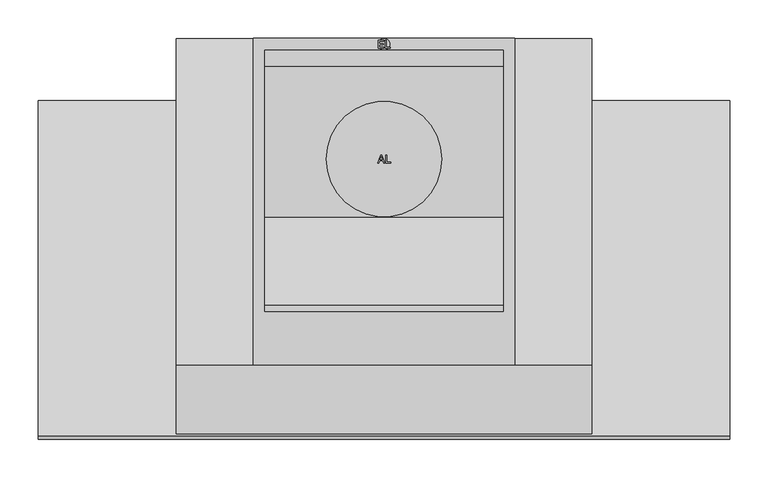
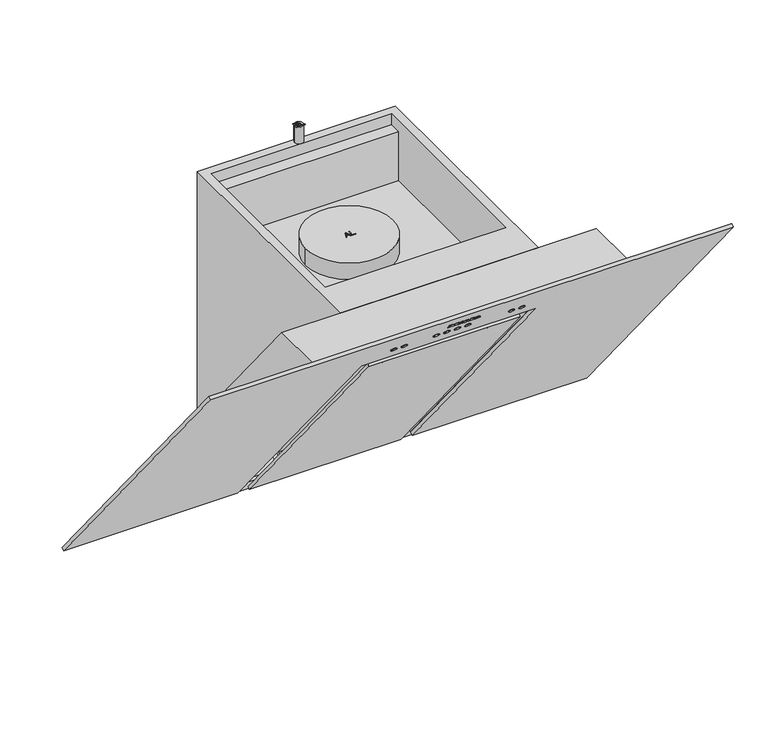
"""IFC4 building model written with IfcOpenShell, lengths in millimetres: proxy geometry, 10837570_RU_DA6498W_OBSW : 28649840_RU_10837570_DA6498W_OBSW."""

from ifc_helpers import new_model, si_unit, point, frame, frame_2d, origin, origin_with_axes, place, context, project, spatial, polyline, circle_curve, ellipse_curve, trimmed, segment, composite_curve, outline, extrude, faceted_brep, source, transform, mapped, element, save
from ifc_brep_helpers import plane_surface, cylinder_surface, revolved_surface, extruded_surface, advanced_brep


def specialty_equipment_2009af76(model_context):
    return source(origin(), model_context, "Body", "SolidModel", [
        extrude(outline(composite_curve([segment(trimmed(circle_curve(frame_2d((0.0, -157.0)), 75.0), [point((-75.0, -157.0))], [point((75.0, -157.0))], False, "CARTESIAN"), True, "CONTINUOUS"), segment(trimmed(circle_curve(frame_2d((0.0, -157.0)), 75.0), [point((75.0, -157.0))], [point((-75.0, -157.0))], False, "CARTESIAN"), True, "CONTINUOUS")], self_intersect=False)), frame((0.0, 0.0, 439.0), z_axis=(0.0, 0.0, 1.0), x_axis=(1.0, 0.0, 0.0)), (0.0, 0.0, 1.0), 30.0),
        faceted_brep([(170.0, 0.0, 23.0707353), (170.0, 0.0, 547.5), (170.0, -424.6744451, 547.5), (-170.0, 0.0, 23.0707353), (-170.0, -424.6744451, 547.5), (-170.0, 0.0, 547.5), (155.0, -15.0, 547.5), (155.0, -355.0, 547.5), (-155.0, -355.0, 547.5), (-155.0, -15.0, 547.5), (155.0, -15.0, 528.0), (155.0, -36.0, 528.0), (155.0, -36.0, 439.0), (155.0, -233.0, 439.0), (155.0, -347.0, 528.0), (155.0, -355.0, 528.0), (-155.0, -355.0, 528.0), (-155.0, -347.0, 528.0), (-155.0, -233.0, 439.0), (-155.0, -36.0, 439.0), (-155.0, -36.0, 528.0), (-155.0, -15.0, 528.0)], [[[0, 1, 2]], [[3, 4, 5]], [[0, 2, 4, 3]], [[1, 0, 3, 5]], [[2, 1, 5, 4], [6, 7, 8, 9]], [[10, 11, 12, 13, 14, 15, 7, 6]], [[16, 17, 18, 19, 20, 21, 9, 8]], [[15, 16, 8, 7]], [[15, 14, 17, 16]], [[14, 13, 18, 17]], [[13, 12, 19, 18]], [[12, 11, 20, 19]], [[11, 10, 21, 20]], [[21, 10, 6, 9]]]),
        extrude(outline(composite_curve([segment(trimmed(circle_curve(frame_2d((0.0, -3.5)), 3.5), [point((0.0, -7.0))], [point((0.0, 0.0))], False, "CARTESIAN"), True, "CONTINUOUS"), segment(trimmed(circle_curve(frame_2d((0.0, -3.5)), 3.5), [point((0.0, 0.0))], [point((0.0, -7.0))], False, "CARTESIAN"), True, "CONTINUOUS")], self_intersect=False)), frame((-90.0, -415.4973437, 423.3471068), z_axis=(0.0, 0.7771459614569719, 0.6293203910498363), x_axis=(1.0, 0.0, 0.0)), (0.0, 0.0, 1.0), 37.0),
        extrude(outline(composite_curve([segment(trimmed(circle_curve(frame_2d((180.0, -4.0036134)), 3.5), [point((180.0, -7.5036133))], [point((180.0, -0.5036133))], False, "CARTESIAN"), True, "CONTINUOUS"), segment(trimmed(circle_curve(frame_2d((180.0, -4.0036134)), 3.5), [point((180.0, -0.5036133))], [point((180.0, -7.5036133))], False, "CARTESIAN"), True, "CONTINUOUS")], self_intersect=False)), frame((-90.0, -415.4973437, 423.3471068), z_axis=(0.0, 0.7771459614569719, 0.6293203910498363), x_axis=(1.0, 0.0, 0.0)), (0.0, 0.0, 1.0), 37.0),
        extrude(outline(composite_curve([segment(trimmed(circle_curve(frame_2d((15.0, 514.561759)), 5.0), [point((15.0, 509.561759))], [point((15.0, 519.561759))], False, "CARTESIAN"), True, "CONTINUOUS"), segment(trimmed(circle_curve(frame_2d((15.0, 514.561759)), 5.0), [point((15.0, 519.561759))], [point((15.0, 509.561759))], False, "CARTESIAN"), True, "CONTINUOUS")], self_intersect=False)), frame((-90.0, -415.4973437, 423.3471068), z_axis=(0.0, 0.7771459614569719, 0.6293203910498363), x_axis=(1.0, 0.0, 0.0)), (0.0, 0.0, 1.0), 37.0),
        extrude(outline(composite_curve([segment(trimmed(circle_curve(frame_2d((165.0, 514.5617717)), 5.0), [point((165.0, 509.5617718))], [point((165.0, 519.5617717))], False, "CARTESIAN"), True, "CONTINUOUS"), segment(trimmed(circle_curve(frame_2d((165.0, 514.5617717)), 5.0), [point((165.0, 519.5617717))], [point((165.0, 509.5617718))], False, "CARTESIAN"), True, "CONTINUOUS")], self_intersect=False)), frame((-90.0, -415.4973437, 423.3471068), z_axis=(0.0, 0.7771459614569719, 0.6293203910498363), x_axis=(1.0, 0.0, 0.0)), (0.0, 0.0, 1.0), 37.0),
        extrude(outline(polyline([(0.0, -5.0), (0.0, 0.0), (260.0, 0.0), (260.0, -5.0), (0.0, -5.0)])), frame((130.0, -85.5896862, 8.0), z_axis=(0.0, -0.6293203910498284, 0.7771459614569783), x_axis=(-1.0, 0.0, 0.0)), (0.0, 0.0, 1.0), 564.2883341),
        extrude(outline(polyline([(898.0, 0.0), (898.0, -692.2883341), (0.0, -692.2883341), (0.0, 0.0), (299.116261, 0.0), (299.116261, -584.288334), (598.883739, -584.288334), (598.883739, 0.0), (898.0, 0.0)])), frame((-449.0, -85.5896862, 8.0), z_axis=(0.0, 0.7771459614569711, 0.6293203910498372), x_axis=(1.0, 0.0, 0.0)), (0.0, 0.0, 1.0), 6.0),
        extrude(outline(polyline([(-7.6476256, -2.4735994), (-0.4023341, -2.4735994), (-0.4023341, -3.7235028), (-6.3612554, -3.7235028), (-6.3612554, -6.712899), (-0.7219306, -6.712899), (-0.7219306, -7.9942253), (-6.366352, -7.9942253), (-6.366352, -11.2651765), (-0.2403397, -11.2651765), (-0.2403397, -12.5381148), (-7.6476256, -12.5381148), (-7.6476256, -2.4735994)])), frame((0.0, 0.0, 578.0), z_axis=(0.0, 0.0, 1.0), x_axis=(1.0, 0.0, 0.0)), (0.0, 0.0, 1.0), 1.0),
        extrude(outline(polyline([(2.9315404, -2.4764714), (2.9315404, -11.2309952), (7.9217424, -11.2309952), (7.9217424, -12.5181464), (1.61276, -12.5181464), (1.61276, -2.4764714), (2.9315404, -2.4764714)])), frame((0.0, 0.0, 578.0), z_axis=(0.0, 0.0, 1.0), x_axis=(1.0, 0.0, 0.0)), (0.0, 0.0, 1.0), 1.0),
        extrude(outline(composite_curve([segment(trimmed(circle_curve(frame_2d((0.0, -7.5)), 7.5), [point((-7.5, -7.5))], [point((7.5, -7.5))], False, "CARTESIAN"), True, "CONTINUOUS"), segment(trimmed(circle_curve(frame_2d((0.0, -7.5)), 7.5), [point((7.5, -7.5))], [point((-7.5, -7.5))], False, "CARTESIAN"), True, "CONTINUOUS")], self_intersect=False)), frame((0.0, 0.0, 548.0), z_axis=(0.0, 0.0, 1.0), x_axis=(1.0, 0.0, 0.0)), (0.0, 0.0, 1.0), 30.0),
        extrude(outline(polyline([(-3.0868012, -151.9480082), (0.9221369, -161.9996288), (-0.4201983, -161.9996288), (-1.5630743, -158.8536246), (-5.7041197, -158.8536246), (-6.9588558, -161.9867213), (-8.1783608, -161.9867213), (-4.1580778, -151.9480082), (-3.0868012, -151.9480082)]), holes=[polyline([(-2.0285512, -157.5915025), (-3.623797, -153.5917386), (-5.2256142, -157.5915025), (-2.0285512, -157.5915025)])]), frame((0.0, 0.0, 469.0), z_axis=(0.0, 0.0, 1.0), x_axis=(1.0, 0.0, 0.0)), (0.0, 0.0, 1.0), 1.0),
        extrude(outline(polyline([(3.5511828, -151.9458297), (3.5511828, -160.7124059), (8.5511838, -160.7124059), (8.5511838, -161.9458278), (2.2629352, -161.9458278), (2.2629352, -151.9458297), (3.5511828, -151.9458297)])), frame((0.0, 0.0, 469.0), z_axis=(0.0, 0.0, 1.0), x_axis=(1.0, 0.0, 0.0)), (0.0, 0.0, 1.0), 1.0),
        extrude(outline(polyline([(174.0, -8.0), (174.0, -73.0), (-174.0, -73.0), (-174.0, -8.0), (174.0, -8.0)])), origin_with_axes(), (0.0, 0.0, 1.0), 12.0),
        advanced_brep(
        [(270.0, 0.0, 23.0707353), (270.0, -424.6744451, 547.5), (270.0, -514.7476147, 547.5), (270.0, -81.1082649, 12.0), (270.0, 0.0, 12.0), (-270.0, 0.0, 23.0707353), (-270.0, 0.0, 12.0), (-270.0, -81.1082649, 12.0), (-270.0, -514.7476147, 547.5), (-270.0, -424.6744451, 547.5), (-149.883739, -81.1082649, 12.0), (-149.883739, -448.6313733, 465.8532415), (149.883739, -448.6313733, 465.8532415), (149.883739, -81.1082649, 12.0), (149.883739, -65.8652085, 12.0), (-149.883739, -65.8652085, 12.0), (227.0, -72.0, 12.0), (227.0, -12.0, 12.0), (-227.0, -72.0, 12.0), (-227.0, -12.0, 12.0), (149.883739, -420.6541187, 488.5087756), (149.883739, -47.0940869, 27.2005546), (-149.883739, -47.0940869, 27.2005546), (-149.883739, -420.6541187, 488.5087756), (227.0, -12.0, 24.0), (227.0, -72.0, 24.0), (-227.0, -12.0, 24.0), (-227.0, -72.0, 24.0)],
        [
            (0, 1),
            (1, 2),
            (2, 3),
            (3, 4),
            (4, 0),
            (5, 6),
            (6, 7),
            (7, 8),
            (8, 9),
            (9, 5),
            (0, 5),
            (9, 1),
            (2, 8),
            (7, 10),
            (10, 11),
            (11, 12),
            (12, 13),
            (13, 3),
            (13, 14),
            (14, 15),
            (15, 10),
            (6, 4),
            (16, 17, circle_curve(frame((227.0, -42.0, 12.0), z_axis=(0.0, 0.0, 1.0), x_axis=(0.0, -1.0, 0.0)), 30.0)),
            (17, 16, circle_curve(frame((227.0, -42.0, 12.0), z_axis=(0.0, 0.0, 1.0), x_axis=(0.0, -1.0, 0.0)), 30.0)),
            (18, 19, circle_curve(frame((-227.0, -42.0, 12.0), z_axis=(0.0, 0.0, 1.0), x_axis=(0.0, -1.0, 0.0)), 30.0)),
            (19, 18, circle_curve(frame((-227.0, -42.0, 12.0), z_axis=(0.0, 0.0, 1.0), x_axis=(0.0, -1.0, 0.0)), 30.0)),
            (20, 21),
            (21, 14),
            (12, 20),
            (22, 23),
            (23, 11),
            (15, 22),
            (21, 22),
            (20, 23),
            (24, 25, circle_curve(frame((227.0, -42.0, 24.0), z_axis=(0.0, 0.0, -1.0), x_axis=(0.0, -1.0, 0.0)), 30.0)),
            (25, 24, circle_curve(frame((227.0, -42.0, 24.0), z_axis=(0.0, 0.0, -1.0), x_axis=(0.0, -1.0, 0.0)), 30.0)),
            (26, 27, circle_curve(frame((-227.0, -42.0, 24.0), z_axis=(0.0, 0.0, -1.0), x_axis=(0.0, -1.0, 0.0)), 30.0)),
            (27, 26, circle_curve(frame((-227.0, -42.0, 24.0), z_axis=(0.0, 0.0, -1.0), x_axis=(0.0, -1.0, 0.0)), 30.0)),
            (24, 17),
            (16, 25),
            (26, 19),
            (18, 27),
        ],
        [
            plane_surface(frame((270.0, -424.6744451, 547.5), z_axis=(1.0, 0.0, 0.0), x_axis=(0.0, -0.6293203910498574, 0.7771459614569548))),
            plane_surface(frame((-270.0, -424.6744451, 547.5), z_axis=(-1.0, 0.0, 0.0), x_axis=(0.0, 0.6293203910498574, -0.7771459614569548))),
            plane_surface(frame((270.0, 0.0, 23.0707353), z_axis=(0.0, 0.7771459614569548, 0.6293203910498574), x_axis=(-1.0, 0.0, 0.0))),
            plane_surface(frame((270.0, -514.7476147, 547.5), z_axis=(0.0, -0.7771459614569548, -0.6293203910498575), x_axis=(-1.0, 0.0, 0.0))),
            plane_surface(frame((270.0, -81.1082649, 12.0), z_axis=(0.0, 0.0, -1.0), x_axis=(-1.0, 0.0, 0.0))),
            plane_surface(frame((270.0, 0.0, 12.0), z_axis=(0.0, 1.0, 0.0), x_axis=(-1.0, 0.0, 0.0))),
            plane_surface(frame((270.0, -424.6744451, 547.5), z_axis=(0.0, 0.0, 1.0), x_axis=(-1.0, 0.0, 0.0))),
            plane_surface(frame((149.883739, -453.2942491, 462.0773191), z_axis=(-1.0, 0.0, 0.0), x_axis=(0.0, 0.6293203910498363, -0.7771459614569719))),
            plane_surface(frame((-149.883739, -453.2942491, 462.0773191), z_axis=(1.0, 0.0, 0.0), x_axis=(0.0, -0.6293203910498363, 0.7771459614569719))),
            plane_surface(frame((-149.883739, -47.0940869, 27.2005546), z_axis=(0.0, -0.6293203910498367, 0.7771459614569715), x_axis=(1.0, 0.0, 0.0))),
            plane_surface(frame((-149.883739, -420.6541187, 488.5087756), z_axis=(0.0, -0.7771459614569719, -0.6293203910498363), x_axis=(1.0, 0.0, 0.0))),
            plane_surface(frame((-149.883739, -453.2942491, 462.0773191), z_axis=(0.0, 0.6293203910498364, -0.7771459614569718), x_axis=(1.0, 0.0, 0.0))),
            plane_surface(frame((227.0, -72.0, 24.0), z_axis=(0.0, 0.0, -1.0), x_axis=(1.0, 0.0, 0.0))),
            revolved_surface(polyline([(227.0, -72.0, 12.0), (227.0, -72.0, 24.0)]), (227.0, -42.0, 24.0), (0.0, 0.0, -1.0)),
            revolved_surface(polyline([(-227.0, -72.0, 12.0), (-227.0, -72.0, 24.0)]), (-227.0, -42.0, 0.0), (0.0, 0.0, -1.0)),
        ],
        [
            (0, [[1, 2, 3, 4, 5]]),
            (1, [[6, 7, 8, 9, 10]]),
            (2, [[-1, 11, -10, 12]]),
            (3, [[-3, 13, -8, 14, 15, 16, 17, 18]]),
            (4, [[-4, -18, 19, 20, 21, -14, -7, 22], [23, 24], [25, 26]]),
            (5, [[-5, -22, -6, -11]]),
            (6, [[-2, -12, -9, -13]]),
            (7, [[27, 28, -19, -17, 29]]),
            (8, [[30, 31, -15, -21, 32]]),
            (9, [[33, -32, -20, -28]]),
            (10, [[-27, 34, -30, -33]]),
            (11, [[-34, -29, -16, -31]]),
            (12, [[35, 36]]),
            (12, [[37, 38]]),
            (13, [[-35, 39, -23, 40]]),
            (13, [[-36, -40, -24, -39]]),
            (14, [[-37, 41, -25, 42]]),
            (14, [[-38, -42, -26, -41]]),
        ],
    ),
        extrude(outline(composite_curve([segment(trimmed(circle_curve(frame_2d((0.0, -5.0)), 5.0), [point((0.0, -10.0))], [point((0.0, 0.0))], False, "CARTESIAN"), True, "CONTINUOUS"), segment(trimmed(circle_curve(frame_2d((0.0, -5.0)), 5.0), [point((0.0, 0.0))], [point((0.0, -10.0))], False, "CARTESIAN"), True, "CONTINUOUS")], self_intersect=False)), frame((110.0, -483.9964654, 498.3359329), z_axis=(0.0, 0.7771459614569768, 0.6293203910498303), x_axis=(-1.0, 0.0, 0.0)), (0.0, 0.0, 1.0), 1.0),
        extrude(outline(composite_curve([segment(trimmed(circle_curve(frame_2d((18.0269412, -5.0)), 5.0), [point((18.0269412, -10.0))], [point((18.0269412, 0.0))], False, "CARTESIAN"), True, "CONTINUOUS"), segment(trimmed(circle_curve(frame_2d((18.0269412, -5.0)), 5.0), [point((18.0269412, 0.0))], [point((18.0269412, -10.0))], False, "CARTESIAN"), True, "CONTINUOUS")], self_intersect=False)), frame((110.0, -483.9964654, 498.3359329), z_axis=(0.0, 0.7771459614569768, 0.6293203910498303), x_axis=(-1.0, 0.0, 0.0)), (0.0, 0.0, 1.0), 1.0),
        extrude(outline(composite_curve([segment(trimmed(circle_curve(frame_2d((147.0, -5.0)), 5.0), [point((147.0, -10.0))], [point((147.0, 0.0))], False, "CARTESIAN"), True, "CONTINUOUS"), segment(trimmed(circle_curve(frame_2d((147.0, -5.0)), 5.0), [point((147.0, 0.0))], [point((147.0, -10.0))], False, "CARTESIAN"), True, "CONTINUOUS")], self_intersect=False)), frame((110.0, -483.9964654, 498.3359329), z_axis=(0.0, 0.7771459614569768, 0.6293203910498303), x_axis=(-1.0, 0.0, 0.0)), (0.0, 0.0, 1.0), 1.0),
        extrude(outline(composite_curve([segment(trimmed(circle_curve(frame_2d((128.9874104, -5.0)), 5.0), [point((128.9874104, -10.0))], [point((128.9874104, 0.0))], False, "CARTESIAN"), True, "CONTINUOUS"), segment(trimmed(circle_curve(frame_2d((128.9874104, -5.0)), 5.0), [point((128.9874104, 0.0))], [point((128.9874104, -10.0))], False, "CARTESIAN"), True, "CONTINUOUS")], self_intersect=False)), frame((110.0, -483.9964654, 498.3359329), z_axis=(0.0, 0.7771459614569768, 0.6293203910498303), x_axis=(-1.0, 0.0, 0.0)), (0.0, 0.0, 1.0), 1.0),
        extrude(outline(composite_curve([segment(trimmed(circle_curve(frame_2d((110.9749274, -5.0)), 5.0), [point((110.9749274, -10.0))], [point((110.9749274, 0.0))], False, "CARTESIAN"), True, "CONTINUOUS"), segment(trimmed(circle_curve(frame_2d((110.9749274, -5.0)), 5.0), [point((110.9749274, 0.0))], [point((110.9749274, -10.0))], False, "CARTESIAN"), True, "CONTINUOUS")], self_intersect=False)), frame((110.0, -483.9964654, 498.3359329), z_axis=(0.0, 0.7771459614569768, 0.6293203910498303), x_axis=(-1.0, 0.0, 0.0)), (0.0, 0.0, 1.0), 1.0),
        extrude(outline(composite_curve([segment(trimmed(circle_curve(frame_2d((92.9624445, -5.0)), 5.0), [point((92.9624445, -10.0))], [point((92.9624445, 0.0))], False, "CARTESIAN"), True, "CONTINUOUS"), segment(trimmed(circle_curve(frame_2d((92.9624445, -5.0)), 5.0), [point((92.9624445, 0.0))], [point((92.9624445, -10.0))], False, "CARTESIAN"), True, "CONTINUOUS")], self_intersect=False)), frame((110.0, -483.9964654, 498.3359329), z_axis=(0.0, 0.7771459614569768, 0.6293203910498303), x_axis=(-1.0, 0.0, 0.0)), (0.0, 0.0, 1.0), 1.0),
        extrude(outline(composite_curve([segment(trimmed(circle_curve(frame_2d((202.0, -5.0)), 5.0), [point((202.0, -10.0))], [point((202.0, 0.0))], False, "CARTESIAN"), True, "CONTINUOUS"), segment(trimmed(circle_curve(frame_2d((202.0, -5.0)), 5.0), [point((202.0, 0.0))], [point((202.0, -10.0))], False, "CARTESIAN"), True, "CONTINUOUS")], self_intersect=False)), frame((110.0, -483.9964654, 498.3359329), z_axis=(0.0, 0.7771459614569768, 0.6293203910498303), x_axis=(-1.0, 0.0, 0.0)), (0.0, 0.0, 1.0), 1.0),
        extrude(outline(composite_curve([segment(trimmed(circle_curve(frame_2d((220.0, -5.0)), 5.0), [point((220.0, -10.0))], [point((220.0, 0.0))], False, "CARTESIAN"), True, "CONTINUOUS"), segment(trimmed(circle_curve(frame_2d((220.0, -5.0)), 5.0), [point((220.0, 0.0))], [point((220.0, -10.0))], False, "CARTESIAN"), True, "CONTINUOUS")], self_intersect=False)), frame((110.0, -483.9964654, 498.3359329), z_axis=(0.0, 0.7771459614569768, 0.6293203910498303), x_axis=(-1.0, 0.0, 0.0)), (0.0, 0.0, 1.0), 1.0),
        advanced_brep(
        [(21.38, -499.2118102, 517.1678079), (21.38, -499.7838624, 517.8742336), (27.401, -499.7838624, 517.8742336), (16.925, -499.7838624, 517.8742336), (19.4, -497.8694698, 515.5101556), (27.248, -499.2118102, 517.1678079), (24.53, -499.2118102, 517.1678079), (22.388, -498.5774552, 516.3844448), (21.38, -500.5088395, 518.7695058), (21.38, -501.1262028, 519.531886), (22.919, -501.1262028, 519.531886), (22.919, -500.5088395, 518.7695058), (21.38, -498.4346642, 517.7971283), (22.388, -497.8003093, 517.0137652), (24.53, -498.4346642, 517.7971283), (27.248, -498.4346642, 517.7971283), (19.4, -497.0923238, 516.139476), (16.925, -499.0067165, 518.503554), (27.401, -499.0067165, 518.503554), (21.38, -499.0067165, 518.503554), (21.38, -499.7316936, 519.3988262), (22.919, -499.7316936, 519.3988262), (22.919, -500.3490569, 520.1612063), (21.38, -500.3490569, 520.1612063)],
        [
            (0, 1),
            (1, 2),
            (2, 3, ellipse_curve(frame((22.163, -499.7838624, 517.8742336), z_axis=(0.0, -0.7771459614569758, -0.6293203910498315), x_axis=(-1.0, 0.0, 0.0)), 5.238, 4.329)),
            (3, 4, circle_curve(frame((20.4080491, -499.9764345, 518.1120403), z_axis=(0.0, -0.7771459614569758, -0.6293203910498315), x_axis=(0.0, 0.6293203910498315, -0.7771459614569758)), 3.4964649)),
            (4, 5, circle_curve(frame((22.0581428, -501.4716997, 519.9585391), z_axis=(0.0, -0.7771459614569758, -0.6293203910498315), x_axis=(0.0, 0.6293203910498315, -0.7771459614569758)), 6.3110933)),
            (5, 6),
            (6, 7, circle_curve(frame((22.8279412, -499.7385514, 517.8182791), z_axis=(0.0, 0.7771459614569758, 0.6293203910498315), x_axis=(0.0, 0.6293203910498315, -0.7771459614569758)), 1.896727)),
            (7, 0, circle_curve(frame((22.388, -499.2118102, 517.1678079), z_axis=(0.0, 0.7771459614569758, 0.6293203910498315), x_axis=(0.0, 0.6293203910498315, -0.7771459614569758)), 1.008)),
            (8, 9),
            (9, 10, circle_curve(frame((22.1495, -501.1262028, 519.531886), z_axis=(0.0, 0.7771459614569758, 0.6293203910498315), x_axis=(0.0, 0.6293203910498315, -0.7771459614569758)), 0.7695)),
            (10, 11),
            (11, 8),
            (12, 13, circle_curve(frame((22.388, -498.4346642, 517.7971283), z_axis=(0.0, -0.7771459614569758, -0.6293203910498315), x_axis=(0.0, 0.6293203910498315, -0.7771459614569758)), 1.008)),
            (13, 14, circle_curve(frame((22.8279412, -498.9614054, 518.4475995), z_axis=(0.0, -0.7771459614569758, -0.6293203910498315), x_axis=(0.0, 0.6293203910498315, -0.7771459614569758)), 1.896727)),
            (14, 15),
            (15, 16, circle_curve(frame((22.0581428, -500.6945538, 520.5878595), z_axis=(0.0, 0.7771459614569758, 0.6293203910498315), x_axis=(0.0, 0.6293203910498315, -0.7771459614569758)), 6.3110933)),
            (16, 17, circle_curve(frame((20.4080491, -499.1992885, 518.7413607), z_axis=(0.0, 0.7771459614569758, 0.6293203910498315), x_axis=(0.0, 0.6293203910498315, -0.7771459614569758)), 3.4964649)),
            (17, 18, ellipse_curve(frame((22.163, -499.0067165, 518.503554), z_axis=(0.0, 0.7771459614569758, 0.6293203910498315), x_axis=(-1.0, 0.0, 0.0)), 5.238, 4.329)),
            (18, 19),
            (19, 12),
            (20, 21),
            (21, 22),
            (22, 23, circle_curve(frame((22.1495, -500.3490569, 520.1612063), z_axis=(0.0, -0.7771459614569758, -0.6293203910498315), x_axis=(0.0, 0.6293203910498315, -0.7771459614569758)), 0.7695)),
            (23, 20),
            (0, 12),
            (19, 1),
            (18, 2),
            (5, 15),
            (14, 6),
            (17, 3),
            (13, 7),
            (16, 4),
            (8, 20),
            (23, 9),
            (22, 10),
            (21, 11),
        ],
        [
            plane_surface(frame((21.38, -499.7838624, 517.8742336), z_axis=(0.0, -0.7771459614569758, -0.6293203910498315), x_axis=(0.0, -0.6293203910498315, 0.7771459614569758))),
            plane_surface(frame((21.38, -499.0067165, 518.503554), z_axis=(0.0, 0.7771459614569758, 0.6293203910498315), x_axis=(0.0, 0.6293203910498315, -0.7771459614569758))),
            plane_surface(frame((21.38, -499.2118102, 517.1678079), z_axis=(1.0, 0.0, 0.0), x_axis=(0.0, 0.7771459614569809, 0.6293203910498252))),
            plane_surface(frame((21.38, -499.7838624, 517.8742336), z_axis=(0.0, 0.629320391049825, -0.777145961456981), x_axis=(0.0, 0.777145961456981, 0.629320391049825))),
            plane_surface(frame((27.248, -499.2118102, 517.1678079), z_axis=(0.0, -0.6293203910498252, 0.7771459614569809), x_axis=(0.0, 0.7771459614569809, 0.6293203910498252))),
            extruded_surface(trimmed(ellipse_curve(frame((22.163, -498.2295705, 519.1328744), z_axis=(0.0, -0.7771459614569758, -0.6293203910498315), x_axis=(-1.0, 0.0, 0.0)), 5.238, 4.329), [point((27.401, -498.2295705, 519.1328744))], [point((16.925, -498.2295705, 519.1328744))], True, "CARTESIAN"), (0.0, -0.7771459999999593, -0.6293203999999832), 1.0000000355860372),
            revolved_surface(polyline([(22.8279412, -497.76775641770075, 516.9735657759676), (22.8279412, -498.5449024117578, 516.3442453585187)]), (22.8279412, -498.9614054, 518.4475995), (0.0, 0.7771459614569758, 0.6293203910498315)),
            revolved_surface(polyline([(22.388, -497.8003092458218, 517.0137651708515), (22.388, -498.5774552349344, 516.3844447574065)]), (22.388, -498.4346642, 517.7971283), (0.0, 0.7771459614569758, 0.6293203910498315)),
            cylinder_surface(frame((20.4080491, -499.1992885, 518.7413607), z_axis=(0.0, -0.7771459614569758, -0.6293203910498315), x_axis=(0.0, 0.6293203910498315, -0.7771459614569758)), 3.4964649),
            cylinder_surface(frame((22.0581428, -500.6945538, 520.5878595), z_axis=(0.0, -0.7771459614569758, -0.6293203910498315), x_axis=(0.0, 0.6293203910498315, -0.7771459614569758)), 6.3110933),
            plane_surface(frame((21.38, -500.5088395, 518.7695058), z_axis=(1.0, 0.0, 0.0), x_axis=(0.0, 0.7771459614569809, 0.6293203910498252))),
            revolved_surface(polyline([(22.1495, -499.86479485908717, 519.5631924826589), (22.1495, -500.6419407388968, 518.9338721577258)]), (22.1495, -500.3490569, 520.1612063), (0.0, 0.7771459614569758, 0.6293203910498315)),
            plane_surface(frame((22.919, -501.1262028, 519.531886), z_axis=(-1.0, 0.0, 0.0), x_axis=(0.0, 0.7771459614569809, 0.6293203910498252))),
            plane_surface(frame((22.919, -500.5088395, 518.7695058), z_axis=(0.0, -0.6293203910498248, 0.7771459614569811), x_axis=(0.0, 0.7771459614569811, 0.6293203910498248))),
        ],
        [
            (0, [[1, 2, 3, 4, 5, 6, 7, 8], [9, 10, 11, 12]]),
            (1, [[13, 14, 15, 16, 17, 18, 19, 20], [21, 22, 23, 24]]),
            (2, [[-1, 25, -20, 26]]),
            (3, [[-2, -26, -19, 27]]),
            (4, [[-6, 28, -15, 29]]),
            (5, [[-3, -27, -18, 30]]),
            (6, [[-7, -29, -14, 31]]),
            (7, [[-8, -31, -13, -25]]),
            (8, [[-4, -30, -17, 32]]),
            (9, [[-5, -32, -16, -28]]),
            (10, [[-9, 33, -24, 34]]),
            (11, [[-10, -34, -23, 35]]),
            (12, [[-11, -35, -22, 36]]),
            (13, [[-12, -36, -21, -33]]),
        ],
    ),
        advanced_brep(
        [(2.597, -499.2118102, 517.1678079), (2.597, -499.7838624, 517.8742336), (8.618, -499.7838624, 517.8742336), (-1.858, -499.7838624, 517.8742336), (0.617, -497.8694698, 515.5101556), (8.465, -499.2118102, 517.1678079), (5.747, -499.2118102, 517.1678079), (3.605, -498.5774552, 516.3844448), (2.597, -500.5088395, 518.7695058), (2.597, -501.1262028, 519.531886), (4.136, -501.1262028, 519.531886), (4.136, -500.5088395, 518.7695058), (2.597, -498.4346642, 517.7971283), (3.605, -497.8003093, 517.0137652), (5.747, -498.4346642, 517.7971283), (8.465, -498.4346642, 517.7971283), (0.617, -497.0923238, 516.139476), (-1.858, -499.0067165, 518.503554), (8.618, -499.0067165, 518.503554), (2.597, -499.0067165, 518.503554), (2.597, -499.7316936, 519.3988262), (4.136, -499.7316936, 519.3988262), (4.136, -500.3490569, 520.1612063), (2.597, -500.3490569, 520.1612063)],
        [
            (0, 1),
            (1, 2),
            (2, 3, ellipse_curve(frame((3.38, -499.7838624, 517.8742336), z_axis=(0.0, -0.7771459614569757, -0.6293203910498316), x_axis=(-1.0, 0.0, 0.0)), 5.238, 4.329)),
            (3, 4, circle_curve(frame((1.6250491, -499.9764345, 518.1120403), z_axis=(0.0, -0.7771459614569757, -0.6293203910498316), x_axis=(0.0, 0.6293203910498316, -0.7771459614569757)), 3.4964649)),
            (4, 5, circle_curve(frame((3.2751428, -501.4716997, 519.9585391), z_axis=(0.0, -0.7771459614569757, -0.6293203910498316), x_axis=(0.0, 0.6293203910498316, -0.7771459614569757)), 6.3110933)),
            (5, 6),
            (6, 7, circle_curve(frame((4.0449412, -499.7385514, 517.8182791), z_axis=(0.0, 0.7771459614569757, 0.6293203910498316), x_axis=(0.0, 0.6293203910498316, -0.7771459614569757)), 1.896727)),
            (7, 0, circle_curve(frame((3.605, -499.2118102, 517.1678079), z_axis=(0.0, 0.7771459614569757, 0.6293203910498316), x_axis=(0.0, 0.6293203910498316, -0.7771459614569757)), 1.008)),
            (8, 9),
            (9, 10, circle_curve(frame((3.3665, -501.1262028, 519.531886), z_axis=(0.0, 0.7771459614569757, 0.6293203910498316), x_axis=(0.0, 0.6293203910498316, -0.7771459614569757)), 0.7695)),
            (10, 11),
            (11, 8),
            (12, 13, circle_curve(frame((3.605, -498.4346642, 517.7971283), z_axis=(0.0, -0.7771459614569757, -0.6293203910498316), x_axis=(0.0, 0.6293203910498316, -0.7771459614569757)), 1.008)),
            (13, 14, circle_curve(frame((4.0449412, -498.9614054, 518.4475995), z_axis=(0.0, -0.7771459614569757, -0.6293203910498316), x_axis=(0.0, 0.6293203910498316, -0.7771459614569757)), 1.896727)),
            (14, 15),
            (15, 16, circle_curve(frame((3.2751428, -500.6945538, 520.5878595), z_axis=(0.0, 0.7771459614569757, 0.6293203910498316), x_axis=(0.0, 0.6293203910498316, -0.7771459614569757)), 6.3110933)),
            (16, 17, circle_curve(frame((1.6250491, -499.1992885, 518.7413607), z_axis=(0.0, 0.7771459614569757, 0.6293203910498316), x_axis=(0.0, 0.6293203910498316, -0.7771459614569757)), 3.4964649)),
            (17, 18, ellipse_curve(frame((3.38, -499.0067165, 518.503554), z_axis=(0.0, 0.7771459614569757, 0.6293203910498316), x_axis=(-1.0, 0.0, 0.0)), 5.238, 4.329)),
            (18, 19),
            (19, 12),
            (20, 21),
            (21, 22),
            (22, 23, circle_curve(frame((3.3665, -500.3490569, 520.1612063), z_axis=(0.0, -0.7771459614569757, -0.6293203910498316), x_axis=(0.0, 0.6293203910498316, -0.7771459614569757)), 0.7695)),
            (23, 20),
            (0, 12),
            (19, 1),
            (18, 2),
            (5, 15),
            (14, 6),
            (17, 3),
            (13, 7),
            (16, 4),
            (8, 20),
            (23, 9),
            (22, 10),
            (21, 11),
        ],
        [
            plane_surface(frame((2.597, -499.7838624, 517.8742336), z_axis=(0.0, -0.7771459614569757, -0.6293203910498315), x_axis=(0.0, -0.6293203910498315, 0.7771459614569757))),
            plane_surface(frame((2.597, -499.0067165, 518.503554), z_axis=(0.0, 0.7771459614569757, 0.6293203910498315), x_axis=(0.0, 0.6293203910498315, -0.7771459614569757))),
            plane_surface(frame((2.597, -499.2118102, 517.1678079), z_axis=(1.0, 0.0, 0.0), x_axis=(0.0, 0.7771459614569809, 0.6293203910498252))),
            plane_surface(frame((2.597, -499.7838624, 517.8742336), z_axis=(0.0, 0.6293203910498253, -0.7771459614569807), x_axis=(0.0, 0.7771459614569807, 0.6293203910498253))),
            plane_surface(frame((8.465, -499.2118102, 517.1678079), z_axis=(0.0, -0.6293203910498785, 0.7771459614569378), x_axis=(0.0, 0.7771459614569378, 0.6293203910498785))),
            extruded_surface(trimmed(ellipse_curve(frame((3.38, -498.2295705, 519.1328744), z_axis=(0.0, -0.7771459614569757, -0.6293203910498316), x_axis=(-1.0, 0.0, 0.0)), 5.238, 4.329), [point((8.618, -498.2295705, 519.1328744))], [point((-1.858, -498.2295705, 519.1328744))], True, "CARTESIAN"), (0.0, -0.7771459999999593, -0.6293203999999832), 1.0000000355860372),
            revolved_surface(polyline([(4.0449412, -497.76775641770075, 516.9735657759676), (4.0449412, -498.5449024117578, 516.3442453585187)]), (4.0449412, -498.9614054, 518.4475995), (0.0, 0.7771459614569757, 0.6293203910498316)),
            revolved_surface(polyline([(3.605, -497.8003092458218, 517.0137651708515), (3.605, -498.5774552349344, 516.3844447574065)]), (3.605, -498.4346642, 517.7971283), (0.0, 0.7771459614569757, 0.6293203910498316)),
            cylinder_surface(frame((1.6250491, -499.1992885, 518.7413607), z_axis=(0.0, -0.7771459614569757, -0.6293203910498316), x_axis=(0.0, 0.6293203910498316, -0.7771459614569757)), 3.4964649),
            cylinder_surface(frame((3.2751428, -500.6945538, 520.5878595), z_axis=(0.0, -0.7771459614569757, -0.6293203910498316), x_axis=(0.0, 0.6293203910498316, -0.7771459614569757)), 6.3110933),
            plane_surface(frame((2.597, -500.5088395, 518.7695058), z_axis=(1.0, 0.0, 0.0), x_axis=(0.0, 0.7771459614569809, 0.6293203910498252))),
            revolved_surface(polyline([(3.3665, -499.86479485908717, 519.5631924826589), (3.3665, -500.6419407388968, 518.9338721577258)]), (3.3665, -500.3490569, 520.1612063), (0.0, 0.7771459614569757, 0.6293203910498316)),
            plane_surface(frame((4.136, -501.1262028, 519.531886), z_axis=(-1.0000000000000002, 0.0, 0.0), x_axis=(0.0, 0.7771459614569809, 0.6293203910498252))),
            plane_surface(frame((4.136, -500.5088395, 518.7695058), z_axis=(0.0, -0.6293203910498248, 0.7771459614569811), x_axis=(0.0, 0.7771459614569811, 0.6293203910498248))),
        ],
        [
            (0, [[1, 2, 3, 4, 5, 6, 7, 8], [9, 10, 11, 12]]),
            (1, [[13, 14, 15, 16, 17, 18, 19, 20], [21, 22, 23, 24]]),
            (2, [[-1, 25, -20, 26]]),
            (3, [[-2, -26, -19, 27]]),
            (4, [[-6, 28, -15, 29]]),
            (5, [[-3, -27, -18, 30]]),
            (6, [[-7, -29, -14, 31]]),
            (7, [[-8, -31, -13, -25]]),
            (8, [[-4, -30, -17, 32]]),
            (9, [[-5, -32, -16, -28]]),
            (10, [[-9, 33, -24, 34]]),
            (11, [[-10, -34, -23, 35]]),
            (12, [[-11, -35, -22, 36]]),
            (13, [[-12, -36, -21, -33]]),
        ],
    ),
        extrude(outline(polyline([(0.0, 0.0), (1.610472, 0.0), (1.6189216, -3.3660977), (0.0122721, -3.3742456), (0.0, 0.0)])), frame((-7.24, -502.8297144, 521.6357884), z_axis=(0.0, 0.7771459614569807, 0.6293203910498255), x_axis=(0.42472021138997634, 0.5697392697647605, -0.703569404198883)), (0.0, 0.0, 1.0), 1.0),
        extrude(outline(polyline([(0.5550646, 2.7158734), (2.0135426, 3.4000976), (2.4684179, 2.4304949), (5.809066, 3.9977125), (5.3541906, 4.9673152), (6.7230415, 5.6094922), (9.7389797, -0.8192182), (8.3701288, -1.4613952), (7.9267209, -0.5162362), (3.1275949, -2.7676781), (0.5550646, 2.7158734)])), frame((-7.24, -502.8297144, 521.6357884), z_axis=(0.0, 0.7771459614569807, 0.6293203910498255), x_axis=(0.42472021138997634, 0.5697392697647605, -0.703569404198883)), (0.0, 0.0, 1.0), 1.0),
        extrude(outline(polyline([(0.0, 0.0), (1.08, 0.0), (1.08, 6.021), (0.0, 6.021), (0.0, 7.533), (7.299, 7.533), (7.299, 6.021), (6.192, 6.021), (6.192, -1.467), (0.0, -1.467), (0.0, 0.0)])), frame((9.122, -502.2412394, 520.9088414), z_axis=(0.0, 0.7771459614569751, 0.6293203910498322), x_axis=(1.0, 0.0, 0.0)), (0.0, 0.0, 1.0), 1.0),
        extrude(outline(polyline([(0.0, 0.0), (1.089, 0.0), (1.089, 6.021), (0.0, 6.021), (0.0, 7.533), (3.96, 7.533), (3.96, 6.021), (2.88, 6.021), (2.88, 2.1988752), (6.903, 7.533), (10.944, 2.1307777), (10.944, 6.021), (9.837, 6.021), (9.837, 7.533), (17.019, 7.533), (17.019, 6.021), (15.876, 6.021), (15.876, 0.0), (17.019, 0.0), (17.019, -1.467), (11.538, -1.467), (8.91, 1.908), (6.273, -1.467), (0.0, -1.467), (0.0, 0.0)])), frame((-27.4, -502.2406705, 520.9081389), z_axis=(0.0, 0.7771459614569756, 0.6293203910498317), x_axis=(1.0, 0.0, 0.0)), (0.0, 0.0, 1.0), 1.0),
        extrude(outline(composite_curve([segment(trimmed(circle_curve(frame_2d((-227.0, -42.0)), 27.5), [point((-199.5, -42.0))], [point((-254.5, -42.0))], False, "CARTESIAN"), True, "CONTINUOUS"), segment(trimmed(circle_curve(frame_2d((-227.0, -42.0)), 27.5), [point((-254.5, -42.0))], [point((-199.5, -42.0))], False, "CARTESIAN"), True, "CONTINUOUS")], self_intersect=False)), frame((0.0, 0.0, 13.0), z_axis=(0.0, 0.0, 1.0), x_axis=(1.0, 0.0, 0.0)), (0.0, 0.0, 1.0), 2.0),
        extrude(outline(composite_curve([segment(trimmed(circle_curve(frame_2d((227.0, -42.0)), 27.5), [point((254.5, -42.0))], [point((199.5, -42.0))], False, "CARTESIAN"), True, "CONTINUOUS"), segment(trimmed(circle_curve(frame_2d((227.0, -42.0)), 27.5), [point((199.5, -42.0))], [point((254.5, -42.0))], False, "CARTESIAN"), True, "CONTINUOUS")], self_intersect=False)), frame((0.0, 0.0, 13.0), z_axis=(0.0, 0.0, 1.0), x_axis=(1.0, 0.0, 0.0)), (0.0, 0.0, 1.0), 2.0),
        extrude(outline(composite_curve([segment(trimmed(circle_curve(frame_2d((-227.0, -42.0)), 29.0), [point((-198.0, -42.0))], [point((-256.0, -42.0))], False, "CARTESIAN"), True, "CONTINUOUS"), segment(trimmed(circle_curve(frame_2d((-227.0, -42.0)), 29.0), [point((-256.0, -42.0))], [point((-198.0, -42.0))], False, "CARTESIAN"), True, "CONTINUOUS")], self_intersect=False), holes=[composite_curve([segment(trimmed(circle_curve(frame_2d((-227.0, -42.0)), 27.5), [point((-199.5, -42.0))], [point((-254.5, -42.0))], True, "CARTESIAN"), True, "CONTINUOUS"), segment(trimmed(circle_curve(frame_2d((-227.0, -42.0)), 27.5), [point((-254.5, -42.0))], [point((-199.5, -42.0))], True, "CARTESIAN"), True, "CONTINUOUS")], self_intersect=False)]), frame((0.0, 0.0, 13.0), z_axis=(0.0, 0.0, 1.0), x_axis=(1.0, 0.0, 0.0)), (0.0, 0.0, 1.0), 2.0),
        extrude(outline(composite_curve([segment(trimmed(circle_curve(frame_2d((227.0, -42.0)), 29.0), [point((256.0, -42.0))], [point((198.0, -42.0))], False, "CARTESIAN"), True, "CONTINUOUS"), segment(trimmed(circle_curve(frame_2d((227.0, -42.0)), 29.0), [point((198.0, -42.0))], [point((256.0, -42.0))], False, "CARTESIAN"), True, "CONTINUOUS")], self_intersect=False), holes=[composite_curve([segment(trimmed(circle_curve(frame_2d((227.0, -42.0)), 27.5), [point((254.5, -42.0))], [point((199.5, -42.0))], True, "CARTESIAN"), True, "CONTINUOUS"), segment(trimmed(circle_curve(frame_2d((227.0, -42.0)), 27.5), [point((199.5, -42.0))], [point((254.5, -42.0))], True, "CARTESIAN"), True, "CONTINUOUS")], self_intersect=False)]), frame((0.0, 0.0, 13.0), z_axis=(0.0, 0.0, 1.0), x_axis=(1.0, 0.0, 0.0)), (0.0, 0.0, 1.0), 2.0),
    ])


if __name__ == "__main__":
    model = new_model("IFC4")
    model_context = context("Model", 3, world=origin())
    ifc_project = project(units=[si_unit("LENGTHUNIT", "METRE", prefix="MILLI")], contexts=[model_context])
    site = spatial("IfcSite", under=ifc_project)
    building = spatial("IfcBuilding", under=site)
    placement = place(None, origin())
    specialty_equipment_shape = specialty_equipment_2009af76(model_context)
    element("IfcBuildingElementProxy", 1, Name="10837570_RU_DA6498W_OBSW : 28649840_RU_10837570_DA6498W_OBSW", ObjectType="10837570_RU_DA6498W_OBSW : 28649840_RU_10837570_DA6498W_OBSW", at=placement, inside=building, context=model_context, shape_type="MappedRepresentation", body=[
        mapped(specialty_equipment_shape, transform((0.0, 0.0, 0.0), x_axis=(1.0, 0.0, 0.0), y_axis=(0.0, 1.0, 0.0), z_axis=(0.0, 0.0, 1.0))),
    ])
    save(model, "model.ifc")
